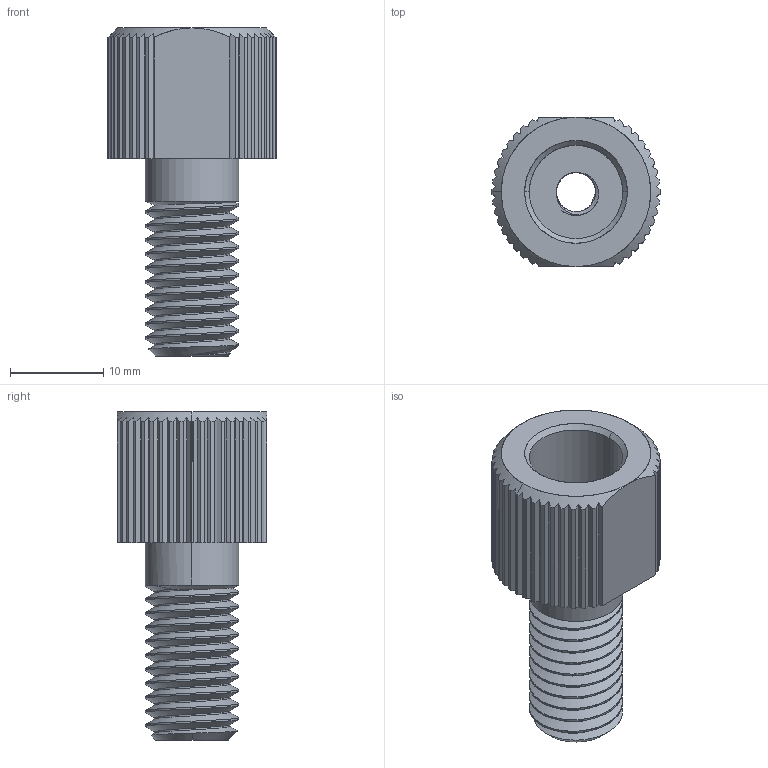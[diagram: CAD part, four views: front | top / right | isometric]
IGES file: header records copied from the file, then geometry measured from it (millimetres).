
Start section: SolidWorks IGES file using analytic representation for surfaces
Global section: file name: C:\Users\Adam\Dropbox\BR-Engineering\Models\BUTTON-X1\SWITCH-M-BOLT-10-25-A-X2.IGS; native system: SolidWorks 2014; preprocessor: SolidWorks 2014; author: Adam; date: 161024.102649; units: millimetre
Bounding box: 18 x 16 x 35.15 mm (x, y, z)
Surface area: 3196.6 mm2 (no closed solid volume)
Topology: 0 solids, 0 shells, 219 faces, 3270 edges, 3270 vertices
Faces by surface type: revolution 127, bspline 92
